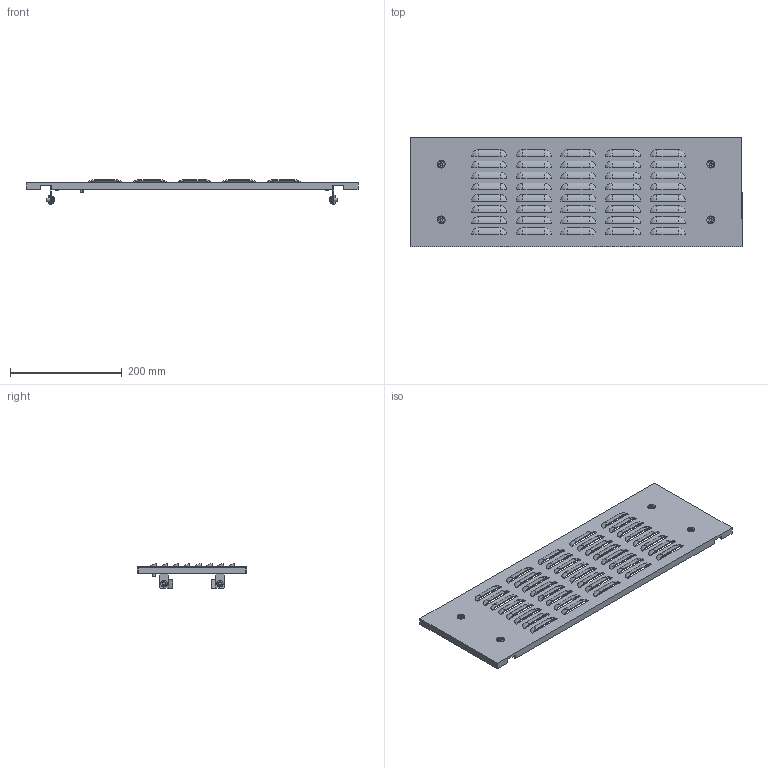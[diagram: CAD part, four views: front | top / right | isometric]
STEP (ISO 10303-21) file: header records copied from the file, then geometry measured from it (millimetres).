
FILE_DESCRIPTION (( 'STEP AP214' ), '1' );
FILE_NAME ('FO-00-PWSV-020-060 Ôàëüø-ïàíåëü âíåøíÿÿ âåíòèëèðóåìàÿ 200õ600 ìì.STEP', '2025-08-25T07:15:39', ( '' ), ( '' ), 'SwSTEP 2.0', 'SolidWorks 2023', '' );
FILE_SCHEMA (( 'AUTOMOTIVE_DESIGN' ));
Length unit declared in the file: millimetre
Products named in the file (1): FO-00-PWSV-020-060 Фальш-панель внешняя вентилируемая 200х600 мм
Bounding box: 595 x 196 x 43.5 mm (x, y, z)
Volume: 335050.6 mm3; surface area: 308097.9 mm2
Topology: 1 solids, 10 shells, 1286 faces, 3245 edges, 1999 vertices
Faces by surface type: plane 618, cylinder 422, sphere 160, cone 62, torus 24
Entity records: 39164 total; most frequent: DIRECTION 7121, CARTESIAN_POINT 7117, ORIENTED_EDGE 6486, EDGE_CURVE 3243, AXIS2_PLACEMENT_3D 2623, VERTEX_POINT 1999, VECTOR 1875, LINE 1875
